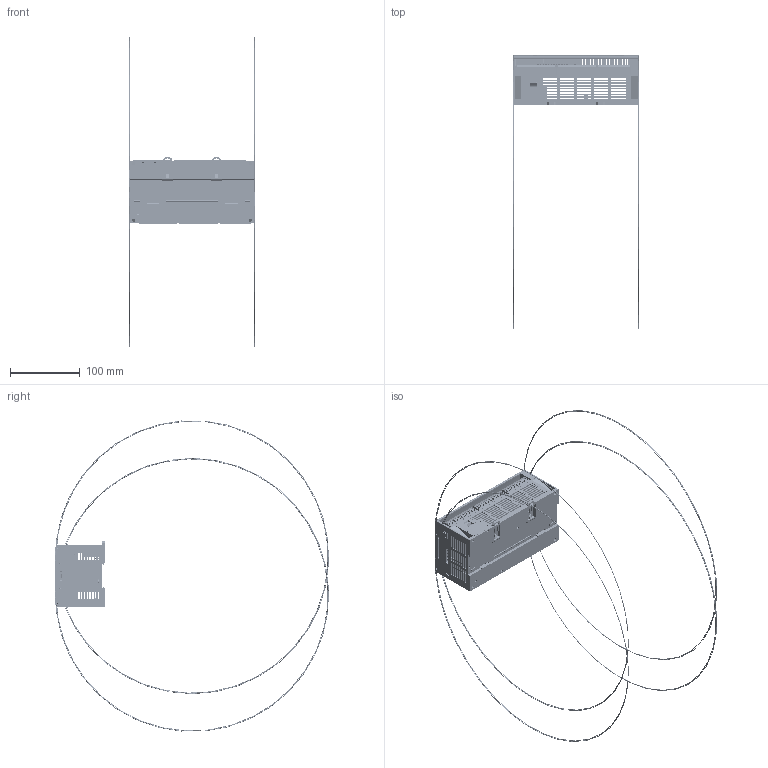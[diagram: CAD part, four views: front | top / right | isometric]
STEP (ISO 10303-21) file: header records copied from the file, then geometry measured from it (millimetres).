
FILE_DESCRIPTION((''),'2;1');
FILE_NAME('48POINTS-2','2023-05-25T20:25:37',('Cyclone_Aero15X'),(''),'CREO PARAMETRIC BY PTC INC, 2019080','CREO PARAMETRIC BY PTC INC, 2019080','');
FILE_SCHEMA(('CONFIG_CONTROL_DESIGN'));
Products named in the file (1): 48POINTS-2
Bounding box: 180.2 x 392.58 x 445.39 mm (x, y, z)
Surface area: 279225.6 mm2 (no closed solid volume)
Topology: 0 solids, 0 shells, 5538 faces, 32111 edges, 31793 vertices
Faces by surface type: plane 3806, cylinder 1344, sphere 255, torus 62, bspline 39, cone 20, extrusion 12
Entity records: 491918 total; most frequent: CARTESIAN_POINT 116021, DIRECTION 72801, TRIMMED_CURVE 58000, VECTOR 54197, LINE 54185, DEFINITIONAL_REPRESENTATION 31718, PCURVE 31718, COMPOSITE_CURVE_SEGMENT 31718
